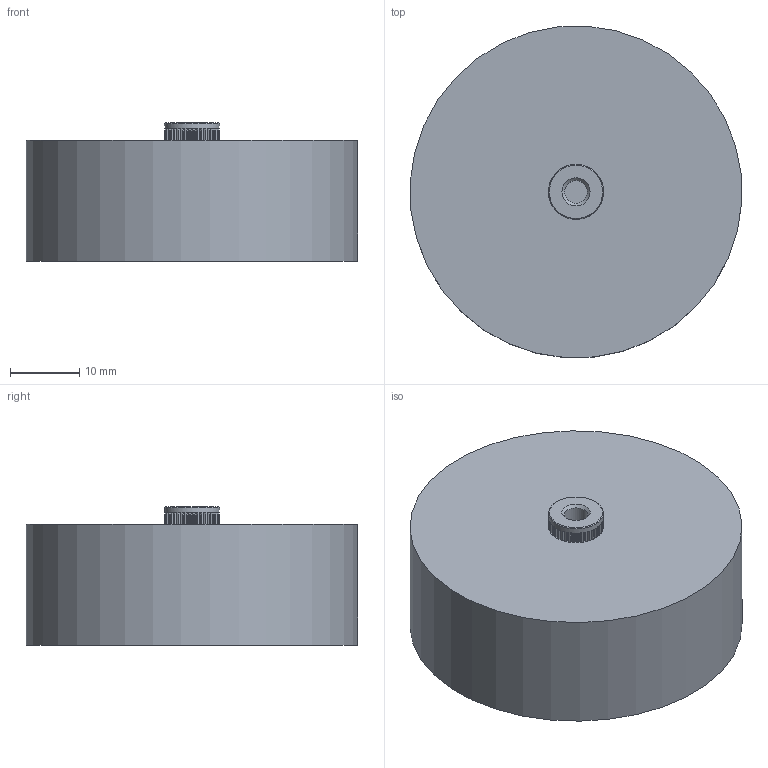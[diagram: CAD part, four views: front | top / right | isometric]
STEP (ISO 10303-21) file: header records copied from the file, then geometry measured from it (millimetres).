
FILE_DESCRIPTION((''),'2;1');
FILE_NAME('I:\Marketing\M6t1\M6T1 - Internal\Drawings\Werk 3\Finished product\Ceramite\Upload for homepage\715\715C###KT###\715C15KTD33.stp','2013-06-10T13:54:47',('sherden'),(''),'Autodesk Inventor 2013','Autodesk Inventor 2013','');
FILE_SCHEMA(('AUTOMOTIVE_DESIGN { 1 2 10303 214 0 1 1 1 }'));
Length unit declared in the file: millimetre
Products named in the file (1): 715C15KTD33
Bounding box: 47.9 x 47.9 x 20 mm (x, y, z)
Volume: 31626.2 mm3; surface area: 6604.6 mm2
Topology: 1 solids, 41 shells, 573 faces, 1419 edges, 932 vertices
Faces by surface type: plane 486, cylinder 84, cone 3
Full cylindrical faces by diameter (mm): 3.302 x2, 7.95 x1, 48 x1
Entity records: 17304 total; most frequent: CARTESIAN_POINT 2916, ORIENTED_EDGE 2822, DIRECTION 2810, EDGE_CURVE 1411, VECTOR 1160, LINE 1160, VERTEX_POINT 931, AXIS2_PLACEMENT_3D 825
